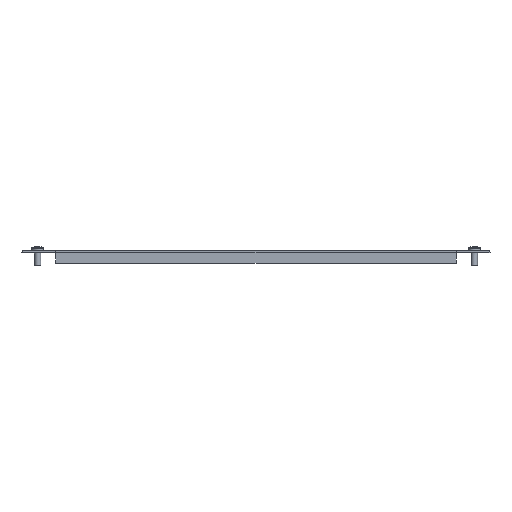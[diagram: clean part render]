
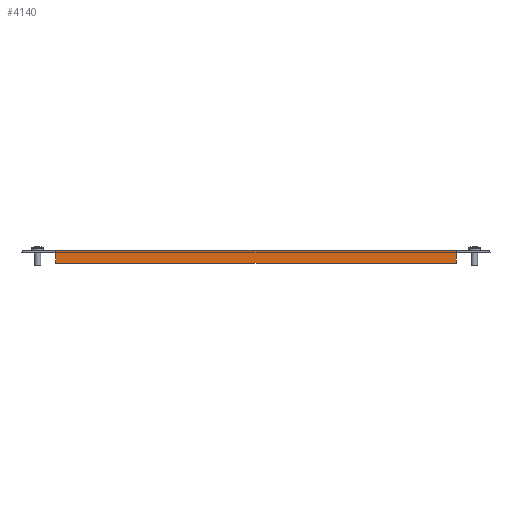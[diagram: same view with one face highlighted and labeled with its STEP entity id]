
A CAD part, front view. The second image highlights one B-rep face of the part: STEP entity #4140.
In plain terms, the highlighted planar face has unit normal (0, -1, 0).
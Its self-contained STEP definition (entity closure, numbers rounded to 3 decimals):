
#24 = CARTESIAN_POINT ( 'NONE',  ( 160.5, -535., -2.4 ) ) ;
#109 = VERTEX_POINT ( 'NONE', #2929 ) ;
#119 = CARTESIAN_POINT ( 'NONE',  ( -160.5, -535., -1.8 ) ) ;
#150 = LINE ( 'NONE', #483, #401 ) ;
#181 = VERTEX_POINT ( 'NONE', #310 ) ;
#310 = CARTESIAN_POINT ( 'NONE',  ( -160.5, -535., -10. ) ) ;
#401 = VECTOR ( 'NONE', #3218, 1000. ) ;
#476 = DIRECTION ( 'NONE',  ( 0., 0., 1. ) ) ;
#483 = CARTESIAN_POINT ( 'NONE',  ( -160.5, -535., 0. ) ) ;
#525 = DIRECTION ( 'NONE',  ( 0., 0., -1. ) ) ;
#585 = ORIENTED_EDGE ( 'NONE', *, *, #3796, .T. ) ;
#644 = VECTOR ( 'NONE', #1723, 1000. ) ;
#1033 = DIRECTION ( 'NONE',  ( -1., 0., 0. ) ) ;
#1192 = DIRECTION ( 'NONE',  ( 0., 0., 1. ) ) ;
#1273 = VECTOR ( 'NONE', #1192, 1000. ) ;
#1331 = FACE_OUTER_BOUND ( 'NONE', #3118, .T. ) ;
#1648 = EDGE_CURVE ( 'NONE', #3480, #109, #2273, .T. ) ;
#1694 = CARTESIAN_POINT ( 'NONE',  ( -160.5, -535., 0. ) ) ;
#1723 = DIRECTION ( 'NONE',  ( -1., 0., 0. ) ) ;
#2022 = VECTOR ( 'NONE', #1033, 1000. ) ;
#2109 = ORIENTED_EDGE ( 'NONE', *, *, #3824, .F. ) ;
#2207 = ORIENTED_EDGE ( 'NONE', *, *, #3414, .F. ) ;
#2273 = LINE ( 'NONE', #24, #1273 ) ;
#2520 = CARTESIAN_POINT ( 'NONE',  ( 0., -535., 0. ) ) ;
#2585 = VERTEX_POINT ( 'NONE', #1694 ) ;
#2650 = CARTESIAN_POINT ( 'NONE',  ( -160.5, -535., -2.4 ) ) ;
#2822 = CARTESIAN_POINT ( 'NONE',  ( 0., -535., 0. ) ) ;
#2842 = CARTESIAN_POINT ( 'NONE',  ( 160.5, -535., -10. ) ) ;
#2896 = LINE ( 'NONE', #119, #4744 ) ;
#2929 = CARTESIAN_POINT ( 'NONE',  ( 160.5, -535., 0. ) ) ;
#3118 = EDGE_LOOP ( 'NONE', ( #2207, #4937, #585, #2109, #3186, #3315 ) ) ;
#3186 = ORIENTED_EDGE ( 'NONE', *, *, #4022, .F. ) ;
#3218 = DIRECTION ( 'NONE',  ( 0., 0., 1. ) ) ;
#3229 = CARTESIAN_POINT ( 'NONE',  ( 160.5, -535., -2.4 ) ) ;
#3315 = ORIENTED_EDGE ( 'NONE', *, *, #4249, .F. ) ;
#3331 = VERTEX_POINT ( 'NONE', #2650 ) ;
#3414 = EDGE_CURVE ( 'NONE', #3480, #4970, #4469, .T. ) ;
#3480 = VERTEX_POINT ( 'NONE', #3229 ) ;
#3655 = VECTOR ( 'NONE', #4880, 1000. ) ;
#3719 = LINE ( 'NONE', #4202, #2022 ) ;
#3796 = EDGE_CURVE ( 'NONE', #109, #2585, #4436, .T. ) ;
#3824 = EDGE_CURVE ( 'NONE', #3331, #2585, #150, .T. ) ;
#3836 = AXIS2_PLACEMENT_3D ( 'NONE', #2520, #4766, #525 ) ;
#3985 = PLANE ( 'NONE',  #3836 ) ;
#4022 = EDGE_CURVE ( 'NONE', #181, #3331, #2896, .T. ) ;
#4140 = ADVANCED_FACE ( 'NONE', ( #1331 ), #3985, .T. ) ;
#4202 = CARTESIAN_POINT ( 'NONE',  ( -160.5, -535., -10. ) ) ;
#4221 = CARTESIAN_POINT ( 'NONE',  ( 160.5, -535., -10. ) ) ;
#4249 = EDGE_CURVE ( 'NONE', #4970, #181, #3719, .T. ) ;
#4436 = LINE ( 'NONE', #2822, #644 ) ;
#4469 = LINE ( 'NONE', #2842, #3655 ) ;
#4744 = VECTOR ( 'NONE', #476, 1000. ) ;
#4766 = DIRECTION ( 'NONE',  ( 0., -1., 0. ) ) ;
#4880 = DIRECTION ( 'NONE',  ( 0., 0., -1. ) ) ;
#4937 = ORIENTED_EDGE ( 'NONE', *, *, #1648, .T. ) ;
#4970 = VERTEX_POINT ( 'NONE', #4221 ) ;
